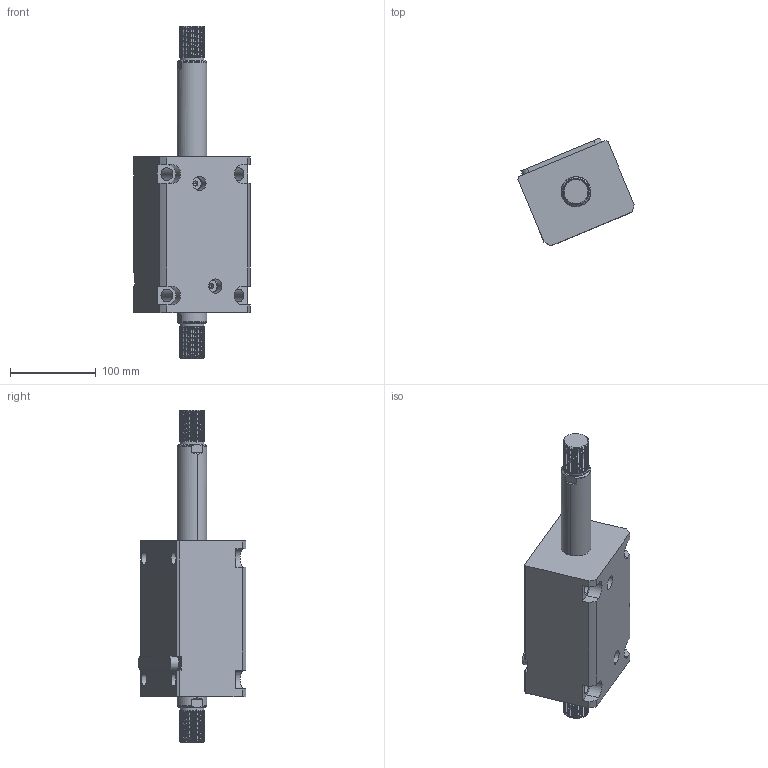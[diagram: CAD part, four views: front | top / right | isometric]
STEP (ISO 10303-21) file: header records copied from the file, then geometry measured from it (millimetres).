
FILE_DESCRIPTION (( 'STEP AP214' ), '1' );
FILE_NAME ('chtb-lw63x100w_asm.STEP', '2018-05-18T08:53:43', ( 'Windows' ), ( 'Microsoft' ), 'SwSTEP 2.0', 'SolidWorks 2015', '' );
FILE_SCHEMA (( 'AUTOMOTIVE_DESIGN' ));
Length unit declared in the file: millimetre
Products named in the file (5): CHTB-SW63X100WHSG; CHTB-LW63X100NBT; CHTB-LA63PJ; CHTB-63QG; chtb-lw63x100w_asm
Assembly tree (4 placements, depth 2):
  chtb-lw63x100w_asm
    CHTB-63QG
    CHTB-LA63PJ
    CHTB-LW63X100NBT
    CHTB-SW63X100WHSG
Bounding box: 135.77 x 126.06 x 388 mm (x, y, z)
Volume: 1722383.1 mm3; surface area: 221589.2 mm2
Topology: 4 solids, 4 shells, 306 faces, 889 edges, 601 vertices
Faces by surface type: cylinder 204, plane 58, bspline 16, cone 16, torus 12
Entity records: 27878 total; most frequent: CARTESIAN_POINT 20531, ORIENTED_EDGE 1770, DIRECTION 1228, EDGE_CURVE 885, VERTEX_POINT 601, AXIS2_PLACEMENT_3D 458, EDGE_LOOP 336, LINE 312
